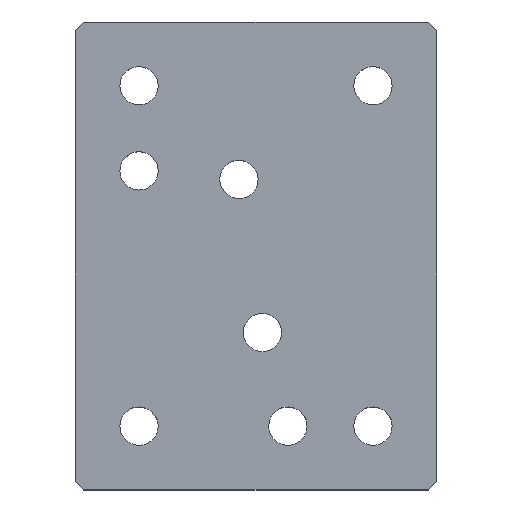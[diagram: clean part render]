
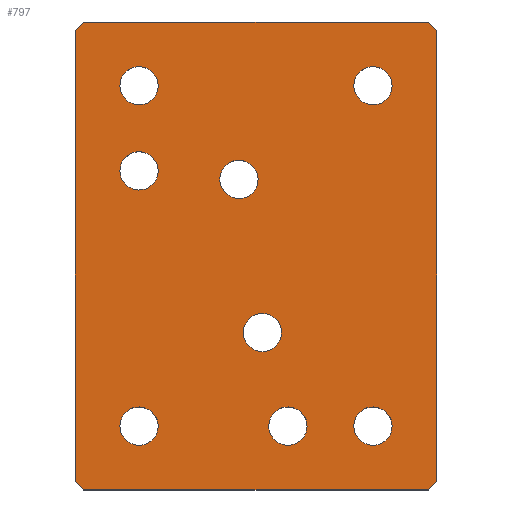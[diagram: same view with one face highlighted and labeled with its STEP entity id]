
A CAD part, top view. The second image highlights one B-rep face of the part: STEP entity #797.
In plain terms, the highlighted planar face has unit normal (0, 0, 1).
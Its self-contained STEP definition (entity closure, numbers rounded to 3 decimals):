
#54=AXIS2_PLACEMENT_3D('Circle Axis2P3D',#52,#53,$) ;
#86=AXIS2_PLACEMENT_3D('Circle Axis2P3D',#84,#85,$) ;
#120=AXIS2_PLACEMENT_3D('Circle Axis2P3D',#118,#119,$) ;
#145=AXIS2_PLACEMENT_3D('Circle Axis2P3D',#143,#144,$) ;
#179=AXIS2_PLACEMENT_3D('Circle Axis2P3D',#177,#178,$) ;
#204=AXIS2_PLACEMENT_3D('Circle Axis2P3D',#202,#203,$) ;
#238=AXIS2_PLACEMENT_3D('Circle Axis2P3D',#236,#237,$) ;
#263=AXIS2_PLACEMENT_3D('Circle Axis2P3D',#261,#262,$) ;
#297=AXIS2_PLACEMENT_3D('Circle Axis2P3D',#295,#296,$) ;
#322=AXIS2_PLACEMENT_3D('Circle Axis2P3D',#320,#321,$) ;
#356=AXIS2_PLACEMENT_3D('Circle Axis2P3D',#354,#355,$) ;
#381=AXIS2_PLACEMENT_3D('Circle Axis2P3D',#379,#380,$) ;
#415=AXIS2_PLACEMENT_3D('Circle Axis2P3D',#413,#414,$) ;
#440=AXIS2_PLACEMENT_3D('Circle Axis2P3D',#438,#439,$) ;
#474=AXIS2_PLACEMENT_3D('Circle Axis2P3D',#472,#473,$) ;
#499=AXIS2_PLACEMENT_3D('Circle Axis2P3D',#497,#498,$) ;
#748=AXIS2_PLACEMENT_3D('Plane Axis2P3D',#745,#746,#747) ;
#49=CARTESIAN_POINT('Vertex',(23.551,37.843,0.)) ;
#52=CARTESIAN_POINT('Axis2P3D Location',(27.5,40.,0.)) ;
#56=CARTESIAN_POINT('Vertex',(31.449,42.157,0.)) ;
#84=CARTESIAN_POINT('Axis2P3D Location',(27.5,40.,0.)) ;
#115=CARTESIAN_POINT('Vertex',(-23.551,42.157,0.)) ;
#118=CARTESIAN_POINT('Axis2P3D Location',(-27.5,40.,0.)) ;
#122=CARTESIAN_POINT('Vertex',(-31.449,37.843,0.)) ;
#143=CARTESIAN_POINT('Axis2P3D Location',(-27.5,40.,0.)) ;
#174=CARTESIAN_POINT('Vertex',(-23.551,22.157,0.)) ;
#177=CARTESIAN_POINT('Axis2P3D Location',(-27.5,20.,0.)) ;
#181=CARTESIAN_POINT('Vertex',(-31.449,17.843,0.)) ;
#202=CARTESIAN_POINT('Axis2P3D Location',(-27.5,20.,0.)) ;
#233=CARTESIAN_POINT('Vertex',(-23.551,-37.843,0.)) ;
#236=CARTESIAN_POINT('Axis2P3D Location',(-27.5,-40.,0.)) ;
#240=CARTESIAN_POINT('Vertex',(-31.449,-42.157,0.)) ;
#261=CARTESIAN_POINT('Axis2P3D Location',(-27.5,-40.,0.)) ;
#292=CARTESIAN_POINT('Vertex',(11.449,-37.843,0.)) ;
#295=CARTESIAN_POINT('Axis2P3D Location',(7.5,-40.,0.)) ;
#299=CARTESIAN_POINT('Vertex',(3.551,-42.157,0.)) ;
#320=CARTESIAN_POINT('Axis2P3D Location',(7.5,-40.,0.)) ;
#351=CARTESIAN_POINT('Vertex',(31.449,-37.843,0.)) ;
#354=CARTESIAN_POINT('Axis2P3D Location',(27.5,-40.,0.)) ;
#358=CARTESIAN_POINT('Vertex',(23.551,-42.157,0.)) ;
#379=CARTESIAN_POINT('Axis2P3D Location',(27.5,-40.,0.)) ;
#410=CARTESIAN_POINT('Vertex',(5.449,-15.843,0.)) ;
#413=CARTESIAN_POINT('Axis2P3D Location',(1.5,-18.,0.)) ;
#417=CARTESIAN_POINT('Vertex',(-2.449,-20.157,0.)) ;
#438=CARTESIAN_POINT('Axis2P3D Location',(1.5,-18.,0.)) ;
#469=CARTESIAN_POINT('Vertex',(-0.051,20.157,0.)) ;
#472=CARTESIAN_POINT('Axis2P3D Location',(-4.,18.,0.)) ;
#476=CARTESIAN_POINT('Vertex',(-7.949,15.843,0.)) ;
#497=CARTESIAN_POINT('Axis2P3D Location',(-4.,18.,0.)) ;
#519=CARTESIAN_POINT('Vertex',(-40.5,-55.,0.)) ;
#524=CARTESIAN_POINT('Line Origine',(-41.5,-54.,0.)) ;
#528=CARTESIAN_POINT('Vertex',(-42.5,-53.,0.)) ;
#555=CARTESIAN_POINT('Line Origine',(0.,-55.,0.)) ;
#559=CARTESIAN_POINT('Vertex',(40.5,-55.,0.)) ;
#590=CARTESIAN_POINT('Vertex',(42.5,-53.,0.)) ;
#595=CARTESIAN_POINT('Line Origine',(41.5,-54.,0.)) ;
#617=CARTESIAN_POINT('Line Origine',(42.5,0.,0.)) ;
#621=CARTESIAN_POINT('Vertex',(42.5,53.,0.)) ;
#660=CARTESIAN_POINT('Vertex',(40.5,55.,0.)) ;
#665=CARTESIAN_POINT('Line Origine',(41.5,54.,0.)) ;
#694=CARTESIAN_POINT('Line Origine',(-42.5,0.,0.)) ;
#698=CARTESIAN_POINT('Vertex',(-42.5,53.,0.)) ;
#718=CARTESIAN_POINT('Line Origine',(0.,55.,0.)) ;
#722=CARTESIAN_POINT('Vertex',(-40.5,55.,0.)) ;
#745=CARTESIAN_POINT('Axis2P3D Location',(0.,0.,0.)) ;
#750=CARTESIAN_POINT('Line Origine',(-41.5,54.,0.)) ;
#53=DIRECTION('Axis2P3D Direction',(0.,-0.,1.)) ;
#85=DIRECTION('Axis2P3D Direction',(0.,-0.,1.)) ;
#119=DIRECTION('Axis2P3D Direction',(0.,-0.,1.)) ;
#144=DIRECTION('Axis2P3D Direction',(0.,-0.,1.)) ;
#178=DIRECTION('Axis2P3D Direction',(0.,-0.,1.)) ;
#203=DIRECTION('Axis2P3D Direction',(0.,-0.,1.)) ;
#237=DIRECTION('Axis2P3D Direction',(0.,-0.,1.)) ;
#262=DIRECTION('Axis2P3D Direction',(0.,-0.,1.)) ;
#296=DIRECTION('Axis2P3D Direction',(0.,-0.,1.)) ;
#321=DIRECTION('Axis2P3D Direction',(0.,-0.,1.)) ;
#355=DIRECTION('Axis2P3D Direction',(0.,-0.,1.)) ;
#380=DIRECTION('Axis2P3D Direction',(0.,-0.,1.)) ;
#414=DIRECTION('Axis2P3D Direction',(0.,-0.,1.)) ;
#439=DIRECTION('Axis2P3D Direction',(0.,-0.,1.)) ;
#473=DIRECTION('Axis2P3D Direction',(0.,-0.,1.)) ;
#498=DIRECTION('Axis2P3D Direction',(0.,-0.,1.)) ;
#525=DIRECTION('Vector Direction',(0.707,-0.707,0.)) ;
#556=DIRECTION('Vector Direction',(-1.,0.,0.)) ;
#596=DIRECTION('Vector Direction',(-0.707,-0.707,0.)) ;
#618=DIRECTION('Vector Direction',(0.,-1.,0.)) ;
#666=DIRECTION('Vector Direction',(-0.707,0.707,0.)) ;
#695=DIRECTION('Vector Direction',(0.,1.,0.)) ;
#719=DIRECTION('Vector Direction',(1.,0.,0.)) ;
#746=DIRECTION('Axis2P3D Direction',(0.,0.,1.)) ;
#747=DIRECTION('Axis2P3D XDirection',(1.,0.,0.)) ;
#751=DIRECTION('Vector Direction',(0.707,0.707,0.)) ;
#526=VECTOR('Line Direction',#525,1.) ;
#557=VECTOR('Line Direction',#556,1.) ;
#597=VECTOR('Line Direction',#596,1.) ;
#619=VECTOR('Line Direction',#618,1.) ;
#667=VECTOR('Line Direction',#666,1.) ;
#696=VECTOR('Line Direction',#695,1.) ;
#720=VECTOR('Line Direction',#719,1.) ;
#752=VECTOR('Line Direction',#751,1.) ;
#756=ORIENTED_EDGE('',*,*,#700,.T.) ;
#757=ORIENTED_EDGE('',*,*,#530,.F.) ;
#758=ORIENTED_EDGE('',*,*,#561,.T.) ;
#759=ORIENTED_EDGE('',*,*,#599,.F.) ;
#760=ORIENTED_EDGE('',*,*,#623,.T.) ;
#761=ORIENTED_EDGE('',*,*,#669,.F.) ;
#762=ORIENTED_EDGE('',*,*,#724,.T.) ;
#763=ORIENTED_EDGE('',*,*,#754,.F.) ;
#766=ORIENTED_EDGE('',*,*,#88,.F.) ;
#767=ORIENTED_EDGE('',*,*,#58,.F.) ;
#770=ORIENTED_EDGE('',*,*,#124,.F.) ;
#771=ORIENTED_EDGE('',*,*,#147,.F.) ;
#774=ORIENTED_EDGE('',*,*,#183,.F.) ;
#775=ORIENTED_EDGE('',*,*,#206,.F.) ;
#778=ORIENTED_EDGE('',*,*,#242,.F.) ;
#779=ORIENTED_EDGE('',*,*,#265,.F.) ;
#782=ORIENTED_EDGE('',*,*,#301,.F.) ;
#783=ORIENTED_EDGE('',*,*,#324,.F.) ;
#786=ORIENTED_EDGE('',*,*,#360,.F.) ;
#787=ORIENTED_EDGE('',*,*,#383,.F.) ;
#790=ORIENTED_EDGE('',*,*,#419,.F.) ;
#791=ORIENTED_EDGE('',*,*,#442,.F.) ;
#794=ORIENTED_EDGE('',*,*,#478,.F.) ;
#795=ORIENTED_EDGE('',*,*,#501,.F.) ;
#768=FACE_BOUND('',#765,.T.) ;
#772=FACE_BOUND('',#769,.T.) ;
#776=FACE_BOUND('',#773,.T.) ;
#780=FACE_BOUND('',#777,.T.) ;
#784=FACE_BOUND('',#781,.T.) ;
#788=FACE_BOUND('',#785,.T.) ;
#792=FACE_BOUND('',#789,.T.) ;
#796=FACE_BOUND('',#793,.T.) ;
#797=ADVANCED_FACE('PartBody',(#764,#768,#772,#776,#780,#784,#788,#792,#796),#749,.T.) ;
#55=CIRCLE('generated circle',#54,4.5) ;
#87=CIRCLE('generated circle',#86,4.5) ;
#121=CIRCLE('generated circle',#120,4.5) ;
#146=CIRCLE('generated circle',#145,4.5) ;
#180=CIRCLE('generated circle',#179,4.5) ;
#205=CIRCLE('generated circle',#204,4.5) ;
#239=CIRCLE('generated circle',#238,4.5) ;
#264=CIRCLE('generated circle',#263,4.5) ;
#298=CIRCLE('generated circle',#297,4.5) ;
#323=CIRCLE('generated circle',#322,4.5) ;
#357=CIRCLE('generated circle',#356,4.5) ;
#382=CIRCLE('generated circle',#381,4.5) ;
#416=CIRCLE('generated circle',#415,4.5) ;
#441=CIRCLE('generated circle',#440,4.5) ;
#475=CIRCLE('generated circle',#474,4.5) ;
#500=CIRCLE('generated circle',#499,4.5) ;
#58=EDGE_CURVE('',#50,#57,#55,.T.) ;
#88=EDGE_CURVE('',#57,#50,#87,.T.) ;
#124=EDGE_CURVE('',#116,#123,#121,.T.) ;
#147=EDGE_CURVE('',#123,#116,#146,.T.) ;
#183=EDGE_CURVE('',#175,#182,#180,.T.) ;
#206=EDGE_CURVE('',#182,#175,#205,.T.) ;
#242=EDGE_CURVE('',#234,#241,#239,.T.) ;
#265=EDGE_CURVE('',#241,#234,#264,.T.) ;
#301=EDGE_CURVE('',#293,#300,#298,.T.) ;
#324=EDGE_CURVE('',#300,#293,#323,.T.) ;
#360=EDGE_CURVE('',#352,#359,#357,.T.) ;
#383=EDGE_CURVE('',#359,#352,#382,.T.) ;
#419=EDGE_CURVE('',#411,#418,#416,.T.) ;
#442=EDGE_CURVE('',#418,#411,#441,.T.) ;
#478=EDGE_CURVE('',#470,#477,#475,.T.) ;
#501=EDGE_CURVE('',#477,#470,#500,.T.) ;
#530=EDGE_CURVE('',#520,#529,#527,.F.) ;
#561=EDGE_CURVE('',#520,#560,#558,.F.) ;
#599=EDGE_CURVE('',#591,#560,#598,.T.) ;
#623=EDGE_CURVE('',#591,#622,#620,.F.) ;
#669=EDGE_CURVE('',#661,#622,#668,.F.) ;
#700=EDGE_CURVE('',#699,#529,#697,.F.) ;
#724=EDGE_CURVE('',#661,#723,#721,.F.) ;
#754=EDGE_CURVE('',#699,#723,#753,.T.) ;
#755=EDGE_LOOP('',(#756,#757,#758,#759,#760,#761,#762,#763)) ;
#765=EDGE_LOOP('',(#766,#767)) ;
#769=EDGE_LOOP('',(#770,#771)) ;
#773=EDGE_LOOP('',(#774,#775)) ;
#777=EDGE_LOOP('',(#778,#779)) ;
#781=EDGE_LOOP('',(#782,#783)) ;
#785=EDGE_LOOP('',(#786,#787)) ;
#789=EDGE_LOOP('',(#790,#791)) ;
#793=EDGE_LOOP('',(#794,#795)) ;
#764=FACE_OUTER_BOUND('',#755,.T.) ;
#527=LINE('Line',#524,#526) ;
#558=LINE('Line',#555,#557) ;
#598=LINE('Line',#595,#597) ;
#620=LINE('Line',#617,#619) ;
#668=LINE('Line',#665,#667) ;
#697=LINE('Line',#694,#696) ;
#721=LINE('Line',#718,#720) ;
#753=LINE('Line',#750,#752) ;
#749=PLANE('',#748) ;
#50=VERTEX_POINT('',#49) ;
#57=VERTEX_POINT('',#56) ;
#116=VERTEX_POINT('',#115) ;
#123=VERTEX_POINT('',#122) ;
#175=VERTEX_POINT('',#174) ;
#182=VERTEX_POINT('',#181) ;
#234=VERTEX_POINT('',#233) ;
#241=VERTEX_POINT('',#240) ;
#293=VERTEX_POINT('',#292) ;
#300=VERTEX_POINT('',#299) ;
#352=VERTEX_POINT('',#351) ;
#359=VERTEX_POINT('',#358) ;
#411=VERTEX_POINT('',#410) ;
#418=VERTEX_POINT('',#417) ;
#470=VERTEX_POINT('',#469) ;
#477=VERTEX_POINT('',#476) ;
#520=VERTEX_POINT('',#519) ;
#529=VERTEX_POINT('',#528) ;
#560=VERTEX_POINT('',#559) ;
#591=VERTEX_POINT('',#590) ;
#622=VERTEX_POINT('',#621) ;
#661=VERTEX_POINT('',#660) ;
#699=VERTEX_POINT('',#698) ;
#723=VERTEX_POINT('',#722) ;
